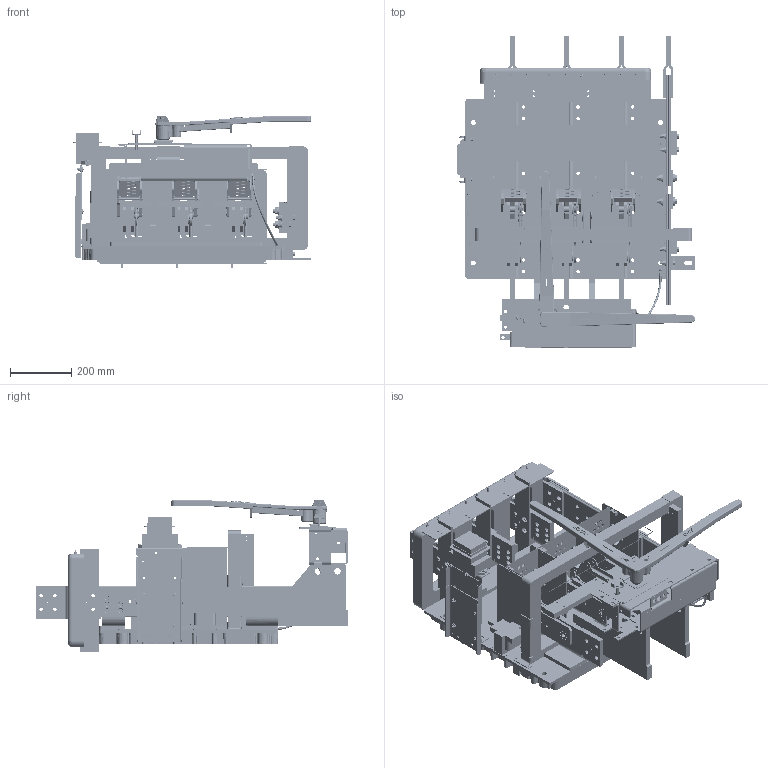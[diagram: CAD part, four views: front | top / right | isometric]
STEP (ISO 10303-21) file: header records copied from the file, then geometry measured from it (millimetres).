
FILE_DESCRIPTION(/* description */ (''),/* implementation_level */ '2;1');
FILE_NAME(/* name */ 'H:\switches\3d-templates\catalog-switches-iges-files\CATALOG-VLB3411AG60.stp',/* time_stamp */ '2022-03-16T10:35:38-05:00',/* author */ ('MKingston'),/* organization */ (''),/* preprocessor_version */ 'ST-DEVELOPER v18.1',/* originating_system */ 'Autodesk Inventor 2022',/* authorisation */ '');
FILE_SCHEMA (('AUTOMOTIVE_DESIGN { 1 0 10303 214 3 1 1 }'));
Products named in the file (106): vlb3411; 277-bf; 670-cb; 670-db; 670-EB; CATALOG-58-qd-arc-chute-assy; 50-ql; 50-qr; 363-a; 363-b; 58-QG; ANSI B18.6.3 - No. 8 - 32 - 5/8; ANSI B18.6.3 - No. 8 - 32 - 1/2; ANSI B18.6.3 - No. 8 - 32 - 3; CATALOG-2500amp-blade-assy; 67-fc3; 69-gc3; 670-AR; 670-AL; 70-M; 67-H; 67-j; ANSI/ASME B18.7 - T 0.252 x 17/32; ANSI/ASME B18.7 - T 0.188 x 17/32; 235-b; 230-a; vlb-interpole-right-side-assy; vlb-interpole-assy; 256-b; 178-b; 178-c; 256-d; 256-c; 246-f; 221-kpa; 452; 481-a; bf-gfr-1-mounting-assembly; 277-L1B; 277-l2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
Assembly tree (230 placements, depth 4):
  vlb3411
    277-bf
    670-cb  x3
    670-db  x3
    670-EB  x3
    CATALOG-58-qd-arc-chute-assy  x3
      50-ql
      50-qr
      363-a
      363-b
      58-QG
      ANSI B18.6.3 - No. 8 - 32 - 5/8
      ANSI B18.6.3 - No. 8 - 32 - 1/2
      ANSI B18.6.3 - No. 8 - 32 - 3
    CATALOG-2500amp-blade-assy  x3
      67-fc3
      69-gc3
      67-j
      670-AR
      670-AL
      70-M
      67-H
      ANSI/ASME B18.7 - T 0.252 x 17/32
      ANSI/ASME B18.7 - T 0.188 x 17/32
    235-b
    230-a
    vlb-interpole-right-side-assy  x2
      256-b
      178-b
      178-c
    vlb-interpole-assy  x2
      256-b
      178-b
      178-c
    256-d
    256-c
    246-f  x2
    221-kpa
    452
    481-a
    bf-gfr-1-mounting-assembly
      277-L1B
      277-l2
      277-l3
      277-l4
      gfr-1
      Bolted Connection
        ANSI B18.22.1 - No. 10 - Type A  x4
        ASME B18.21.1 - No. 10. Carbon Steel, ETLWTB(1)  x4
        ANSI B18.6.3 - 10 - 32 x 3/4 SR HMS  x2
        ANSI B18.2.2 - 10 - 32, HMSNI  x2
      Bolted Connection_1
        ANSI B18.5 - 1/4-20 UNC - 0.75, RHBI  x6
        ASTM F436 - 1/4, CW  x6
        ASME B18.21.1 - 1/4. Carbon Steel, HITLWTB(1)  x6
        ANSI B18.2.2 - 1/4 - 20, HNI  x6
    gfi-ring-assembly
      GFS10X24
      277-ma
    transformer
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Bounding box: 775.46 x 1014.26 x 495.57 mm (x, y, z)
Volume: 34132463.3 mm3; surface area: 6583490.4 mm2
Topology: 297 solids, 299 shells, 8197 faces, 20511 edges, 13249 vertices
Faces by surface type: plane 4110, cylinder 2469, cone 1169, torus 246, bspline 166, sphere 37
Full cylindrical faces by diameter (mm): 1.702 x8, 3.175 x4, 3.302 x26, 3.581 x2, 3.683 x8, 3.81 x9, 3.962 x11, 4.089 x4, 4.166 x17, 4.191 x9, 4.293 x9, 4.366 x2, 4.496 x24, 4.572 x9, 4.653 x4, 4.762 x46, 4.775 x11, 4.801 x8, 4.826 x2, 4.902 x14, 4.915 x24, 4.953 x4, 4.978 x15, 5.08 x2, 5.462 x4, 5.537 x5, 5.556 x5, 5.563 x4, 5.791 x6, 6.35 x29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
Entity records: 140345 total; most frequent: CARTESIAN_POINT 34401, DIRECTION 21675, ORIENTED_EDGE 20770, EDGE_CURVE 10396, AXIS2_PLACEMENT_3D 7908, VERTEX_POINT 6733, LINE 5859, VECTOR 5859
